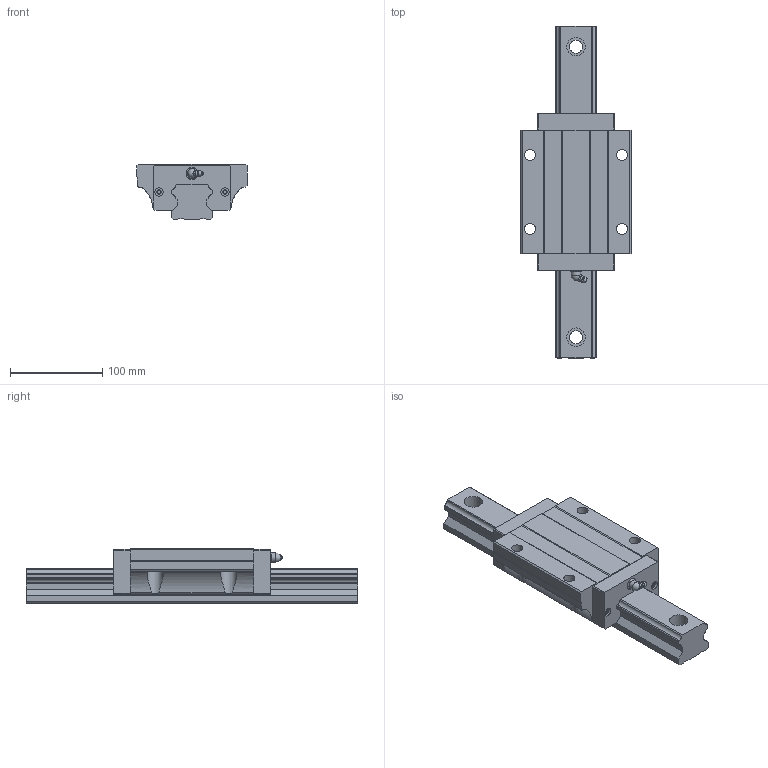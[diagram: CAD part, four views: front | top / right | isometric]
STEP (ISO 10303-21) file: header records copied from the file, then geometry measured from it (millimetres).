
FILE_DESCRIPTION(/* description */ (''),/* implementation_level */ '2;1');
FILE_NAME(/* name */ 'MSA45LA',/* time_stamp */ '2003-12-27T16:40:02+08:00',/* author */ (''),/* organization */ (''),/* preprocessor_version */ 'ST-DEVELOPER v9',/* originating_system */ '',/* authorisation */ '');
FILE_SCHEMA (('CONFIG_CONTROL_DESIGN'));
Length unit declared in the file: millimetre
Products named in the file (1): zircC7DFjm7o
Bounding box: 120 x 360 x 60 mm (x, y, z)
Volume: 1148627.4 mm3; surface area: 147665.9 mm2
Topology: 3 solids, 3 shells, 191 faces, 504 edges, 333 vertices
Faces by surface type: plane 131, cylinder 49, torus 7, sphere 2, cone 1, bspline 1
Full cylindrical faces by diameter (mm): 4.5 x4, 9 x4, 10 x1, 12 x4, 13 x2, 14 x4, 20 x4
Entity records: 6013 total; most frequent: CARTESIAN_POINT 1240, ORIENTED_EDGE 948, DIRECTION 942, EDGE_CURVE 474, VERTEX_POINT 330, LINE 326, VECTOR 326, AXIS2_PLACEMENT_3D 308
